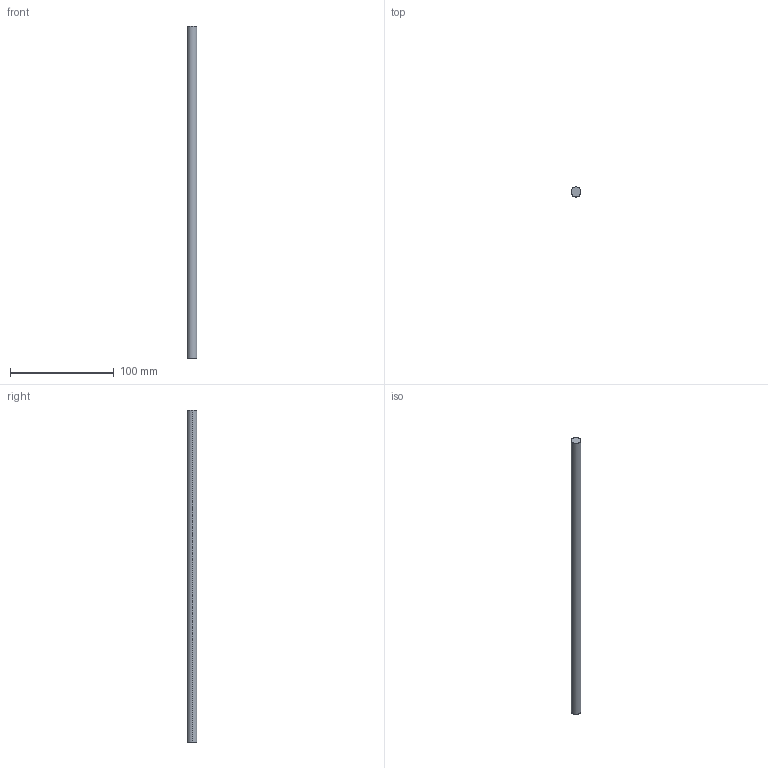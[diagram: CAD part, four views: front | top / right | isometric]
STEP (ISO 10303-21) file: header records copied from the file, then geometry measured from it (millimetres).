
FILE_DESCRIPTION (( 'STEP AP203' ), '1' );
FILE_NAME ('Wheelaxle.STEP', '2021-06-04T13:47:13', ( '' ), ( '' ), 'SwSTEP 2.0', 'SolidWorks 2016', '' );
FILE_SCHEMA (( 'CONFIG_CONTROL_DESIGN' ));
Length unit declared in the file: centimetre
Products named in the file (1): Wheelaxle
Bounding box: 9.6 x 9.6 x 320 mm (x, y, z)
Volume: 23162.3 mm3; surface area: 9795.7 mm2
Topology: 1 solids, 1 shells, 4 faces, 6 edges, 4 vertices
Faces by surface type: cylinder 2, plane 2
Entity records: 171 total; most frequent: DIRECTION 20, CARTESIAN_POINT 15, ORIENTED_EDGE 12, AXIS2_PLACEMENT_3D 9, PERSON_AND_ORGANIZATION 8, EDGE_CURVE 6, CALENDAR_DATE 5, CC_DESIGN_PERSON_AND_ORGANIZATION_ASSIGNMENT 5
